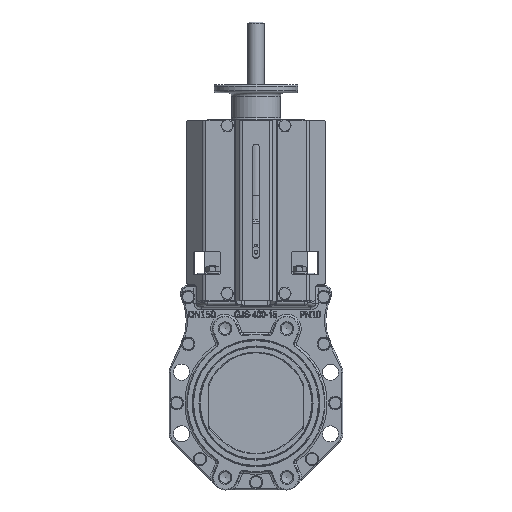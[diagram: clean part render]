
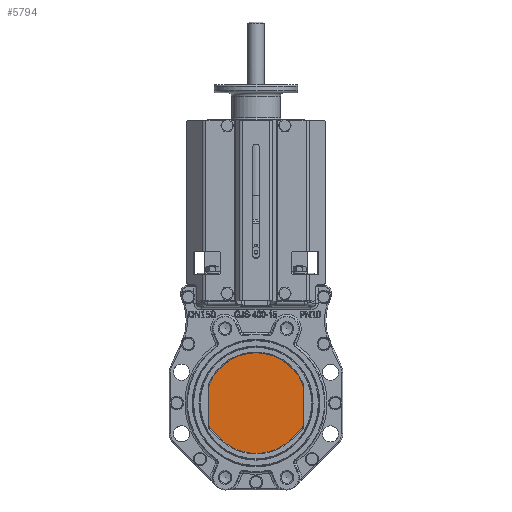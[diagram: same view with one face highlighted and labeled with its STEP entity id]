
A CAD part, top view. The second image highlights one B-rep face of the part: STEP entity #5794.
In plain terms, the highlighted planar face has unit normal (0, 0, 1).
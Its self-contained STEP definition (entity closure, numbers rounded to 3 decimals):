
#3962=FACE_OUTER_BOUND('',#9838,.T.);
#5794=ADVANCED_FACE('',(#3962),#7353,.T.);
#7353=PLANE('',#36783);
#9838=EDGE_LOOP('',(#17821,#17822,#17823,#17824,#17825,#17826,#17827,#17828,
#17829,#17830));
#11555=CIRCLE('',#35812,2.);
#11557=CIRCLE('',#35816,2.);
#11559=CIRCLE('',#35820,75.);
#11561=CIRCLE('',#35824,2.);
#11563=CIRCLE('',#35828,2.);
#11565=CIRCLE('',#35831,75.);
#17821=ORIENTED_EDGE('',*,*,#26877,.F.);
#17822=ORIENTED_EDGE('',*,*,#26904,.F.);
#17823=ORIENTED_EDGE('',*,*,#26901,.F.);
#17824=ORIENTED_EDGE('',*,*,#26898,.F.);
#17825=ORIENTED_EDGE('',*,*,#26895,.F.);
#17826=ORIENTED_EDGE('',*,*,#26892,.F.);
#17827=ORIENTED_EDGE('',*,*,#26889,.F.);
#17828=ORIENTED_EDGE('',*,*,#26886,.F.);
#17829=ORIENTED_EDGE('',*,*,#26883,.F.);
#17830=ORIENTED_EDGE('',*,*,#26880,.F.);
#23585=VERTEX_POINT('',#50615);
#23586=VERTEX_POINT('',#50617);
#23588=VERTEX_POINT('',#50623);
#23590=VERTEX_POINT('',#50629);
#23592=VERTEX_POINT('',#50635);
#23594=VERTEX_POINT('',#50641);
#23596=VERTEX_POINT('',#50647);
#23598=VERTEX_POINT('',#50653);
#23600=VERTEX_POINT('',#50659);
#23602=VERTEX_POINT('',#50665);
#26877=EDGE_CURVE('',#23585,#23586,#11555,.T.);
#26880=EDGE_CURVE('',#23586,#23588,#31404,.T.);
#26883=EDGE_CURVE('',#23588,#23590,#11557,.T.);
#26886=EDGE_CURVE('',#23590,#23592,#31408,.T.);
#26889=EDGE_CURVE('',#23592,#23594,#11559,.T.);
#26892=EDGE_CURVE('',#23594,#23596,#31412,.T.);
#26895=EDGE_CURVE('',#23596,#23598,#11561,.T.);
#26898=EDGE_CURVE('',#23598,#23600,#31416,.T.);
#26901=EDGE_CURVE('',#23600,#23602,#11563,.T.);
#26904=EDGE_CURVE('',#23602,#23585,#11565,.T.);
#31404=LINE('',#50622,#33647);
#31408=LINE('',#50634,#33651);
#31412=LINE('',#50646,#33655);
#31416=LINE('',#50658,#33659);
#33647=VECTOR('',#39914,1.);
#33651=VECTOR('',#39926,1.);
#33655=VECTOR('',#39938,1.);
#33659=VECTOR('',#39950,1.);
#35812=AXIS2_PLACEMENT_3D('',#50616,#39907,#39908);
#35816=AXIS2_PLACEMENT_3D('',#50628,#39919,#39920);
#35820=AXIS2_PLACEMENT_3D('',#50640,#39931,#39932);
#35824=AXIS2_PLACEMENT_3D('',#50652,#39943,#39944);
#35828=AXIS2_PLACEMENT_3D('',#50664,#39955,#39956);
#35831=AXIS2_PLACEMENT_3D('',#50670,#39962,#39963);
#36783=AXIS2_PLACEMENT_3D('',#58548,#42813,#42814);
#39907=DIRECTION('',(0.,0.,-1.));
#39908=DIRECTION('',(1.,0.,0.));
#39914=DIRECTION('',(0.,-1.,0.));
#39919=DIRECTION('',(0.,0.,-1.));
#39920=DIRECTION('',(1.,0.,0.));
#39926=DIRECTION('',(-0.707,-0.707,0.));
#39931=DIRECTION('',(0.,0.,-1.));
#39932=DIRECTION('',(1.,0.,0.));
#39938=DIRECTION('',(-0.707,0.707,0.));
#39943=DIRECTION('',(0.,0.,-1.));
#39944=DIRECTION('',(1.,0.,0.));
#39950=DIRECTION('',(0.,1.,0.));
#39955=DIRECTION('',(0.,0.,-1.));
#39956=DIRECTION('',(1.,0.,0.));
#39962=DIRECTION('',(0.,0.,-1.));
#39963=DIRECTION('',(1.,0.,0.));
#42813=DIRECTION('',(0.,0.,1.));
#42814=DIRECTION('',(1.,0.,0.));
#50615=CARTESIAN_POINT('',(69.863,27.279,3.));
#50616=CARTESIAN_POINT('',(68.,26.552,3.));
#50617=CARTESIAN_POINT('',(70.,26.552,3.));
#50622=CARTESIAN_POINT('',(70.,-36.066,3.));
#50623=CARTESIAN_POINT('',(70.,-35.238,3.));
#50628=CARTESIAN_POINT('',(68.,-35.238,3.));
#50629=CARTESIAN_POINT('',(69.414,-36.652,3.));
#50634=CARTESIAN_POINT('',(53.033,-53.033,3.));
#50635=CARTESIAN_POINT('',(53.033,-53.033,3.));
#50640=CARTESIAN_POINT('',(0.,0.,3.));
#50641=CARTESIAN_POINT('',(-53.033,-53.033,3.));
#50646=CARTESIAN_POINT('',(-70.,-36.066,3.));
#50647=CARTESIAN_POINT('',(-69.414,-36.652,3.));
#50652=CARTESIAN_POINT('',(-68.,-35.238,3.));
#50653=CARTESIAN_POINT('',(-70.,-35.238,3.));
#50658=CARTESIAN_POINT('',(-70.,26.926,3.));
#50659=CARTESIAN_POINT('',(-70.,26.552,3.));
#50664=CARTESIAN_POINT('',(-68.,26.552,3.));
#50665=CARTESIAN_POINT('',(-69.863,27.279,3.));
#50670=CARTESIAN_POINT('',(0.,0.,3.));
#58548=CARTESIAN_POINT('',(36.634,89.109,3.));
